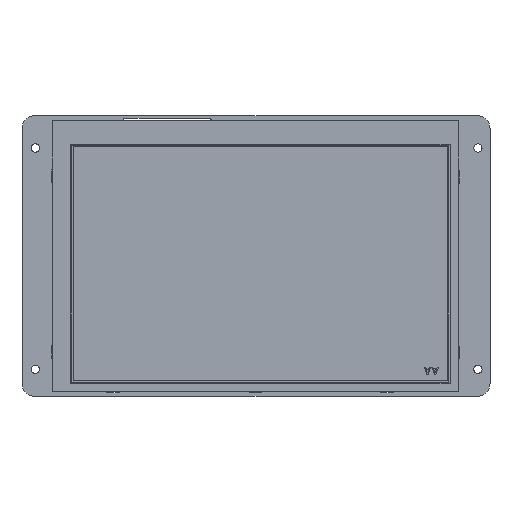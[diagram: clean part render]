
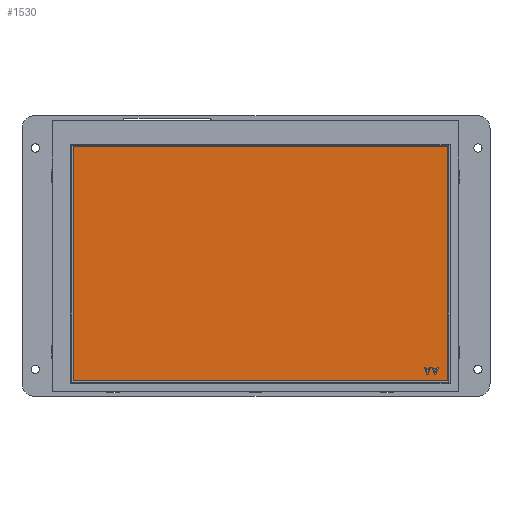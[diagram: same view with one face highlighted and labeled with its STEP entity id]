
A CAD part, front view. The second image highlights one B-rep face of the part: STEP entity #1530.
In plain terms, the highlighted planar face has unit normal (0, -1, 0) as drawn and (0, 1, 0) by its records, which use the part's own axes.
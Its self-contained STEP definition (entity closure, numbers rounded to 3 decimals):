
#741=DIRECTION('',(0.,0.,1.));
#742=VECTOR('',#741,93.6);
#743=CARTESIAN_POINT('',(-76.8,3.05,-49.63));
#744=LINE('',#743,#742);
#745=DIRECTION('',(-1.,0.,0.));
#746=VECTOR('',#745,149.76);
#747=CARTESIAN_POINT('',(72.96,3.05,-49.63));
#748=LINE('',#747,#746);
#749=DIRECTION('',(0.,0.,-1.));
#750=VECTOR('',#749,93.6);
#751=CARTESIAN_POINT('',(72.96,3.05,43.97));
#752=LINE('',#751,#750);
#753=DIRECTION('',(1.,0.,0.));
#754=VECTOR('',#753,149.76);
#755=CARTESIAN_POINT('',(-76.8,3.05,43.97));
#756=LINE('',#755,#754);
#757=DIRECTION('',(0.316,0.,0.949));
#758=VECTOR('',#757,3.236);
#759=CARTESIAN_POINT('',(-71.439,3.05,-47.287));
#760=LINE('',#759,#758);
#761=DIRECTION('',(1.,0.,0.));
#762=VECTOR('',#761,0.512);
#763=CARTESIAN_POINT('',(-71.951,3.05,-47.287));
#764=LINE('',#763,#762);
#765=DIRECTION('',(0.316,0.,-0.949));
#766=VECTOR('',#765,3.236);
#767=CARTESIAN_POINT('',(-72.974,3.05,-44.217));
#768=LINE('',#767,#766);
#769=DIRECTION('',(-1.,0.,0.));
#770=VECTOR('',#769,0.384);
#771=CARTESIAN_POINT('',(-72.59,3.05,-44.217));
#772=LINE('',#771,#770);
#773=DIRECTION('',(-0.31,0.,0.951));
#774=VECTOR('',#773,0.825);
#775=CARTESIAN_POINT('',(-72.334,3.05,-45.001));
#776=LINE('',#775,#774);
#777=DIRECTION('',(-1.,0.,0.));
#778=VECTOR('',#777,1.279);
#779=CARTESIAN_POINT('',(-71.055,3.05,-45.001));
#780=LINE('',#779,#778);
#781=DIRECTION('',(-0.31,0.,-0.951));
#782=VECTOR('',#781,0.825);
#783=CARTESIAN_POINT('',(-70.799,3.05,-44.217));
#784=LINE('',#783,#782);
#785=DIRECTION('',(-1.,0.,0.));
#786=VECTOR('',#785,0.384);
#787=CARTESIAN_POINT('',(-70.416,3.05,-44.217));
#788=LINE('',#787,#786);
#801=DIRECTION('',(0.316,0.,0.949));
#802=VECTOR('',#801,3.236);
#803=CARTESIAN_POINT('',(-68.369,3.05,-47.287));
#804=LINE('',#803,#802);
#805=DIRECTION('',(1.,0.,0.));
#806=VECTOR('',#805,0.512);
#807=CARTESIAN_POINT('',(-68.881,3.05,-47.287));
#808=LINE('',#807,#806);
#809=DIRECTION('',(0.316,0.,-0.949));
#810=VECTOR('',#809,3.236);
#811=CARTESIAN_POINT('',(-69.904,3.05,-44.217));
#812=LINE('',#811,#810);
#813=DIRECTION('',(-1.,0.,0.));
#814=VECTOR('',#813,0.384);
#815=CARTESIAN_POINT('',(-69.52,3.05,-44.217));
#816=LINE('',#815,#814);
#817=DIRECTION('',(-0.31,0.,0.951));
#818=VECTOR('',#817,0.825);
#819=CARTESIAN_POINT('',(-69.264,3.05,-45.001));
#820=LINE('',#819,#818);
#821=DIRECTION('',(-1.,0.,0.));
#822=VECTOR('',#821,1.279);
#823=CARTESIAN_POINT('',(-67.985,3.05,-45.001));
#824=LINE('',#823,#822);
#825=DIRECTION('',(-0.31,0.,-0.951));
#826=VECTOR('',#825,0.825);
#827=CARTESIAN_POINT('',(-67.729,3.05,-44.217));
#828=LINE('',#827,#826);
#829=DIRECTION('',(-1.,0.,0.));
#830=VECTOR('',#829,0.384);
#831=CARTESIAN_POINT('',(-67.346,3.05,-44.217));
#832=LINE('',#831,#830);
#981=CARTESIAN_POINT('',(-76.8,3.05,-49.63));
#982=CARTESIAN_POINT('',(-76.8,3.05,43.97));
#983=VERTEX_POINT('',#981);
#984=VERTEX_POINT('',#982);
#985=CARTESIAN_POINT('',(72.96,3.05,43.97));
#986=VERTEX_POINT('',#985);
#987=CARTESIAN_POINT('',(72.96,3.05,-49.63));
#988=VERTEX_POINT('',#987);
#989=CARTESIAN_POINT('',(-71.439,3.05,-47.287));
#990=CARTESIAN_POINT('',(-70.416,3.05,-44.217));
#991=VERTEX_POINT('',#989);
#992=VERTEX_POINT('',#990);
#993=CARTESIAN_POINT('',(-70.799,3.05,-44.217));
#994=VERTEX_POINT('',#993);
#995=CARTESIAN_POINT('',(-71.055,3.05,-45.001));
#996=VERTEX_POINT('',#995);
#997=CARTESIAN_POINT('',(-72.334,3.05,-45.001));
#998=VERTEX_POINT('',#997);
#999=CARTESIAN_POINT('',(-72.59,3.05,-44.217));
#1000=VERTEX_POINT('',#999);
#1001=CARTESIAN_POINT('',(-72.974,3.05,-44.217));
#1002=VERTEX_POINT('',#1001);
#1003=CARTESIAN_POINT('',(-71.951,3.05,-47.287));
#1004=VERTEX_POINT('',#1003);
#1011=CARTESIAN_POINT('',(-68.369,3.05,-47.287));
#1012=CARTESIAN_POINT('',(-67.346,3.05,-44.217));
#1013=VERTEX_POINT('',#1011);
#1014=VERTEX_POINT('',#1012);
#1015=CARTESIAN_POINT('',(-67.729,3.05,-44.217));
#1016=VERTEX_POINT('',#1015);
#1017=CARTESIAN_POINT('',(-67.985,3.05,-45.001));
#1018=VERTEX_POINT('',#1017);
#1019=CARTESIAN_POINT('',(-69.264,3.05,-45.001));
#1020=VERTEX_POINT('',#1019);
#1021=CARTESIAN_POINT('',(-69.52,3.05,-44.217));
#1022=VERTEX_POINT('',#1021);
#1023=CARTESIAN_POINT('',(-69.904,3.05,-44.217));
#1024=VERTEX_POINT('',#1023);
#1025=CARTESIAN_POINT('',(-68.881,3.05,-47.287));
#1026=VERTEX_POINT('',#1025);
#1483=CARTESIAN_POINT('',(0.,3.05,0.));
#1484=DIRECTION('',(0.,1.,0.));
#1485=DIRECTION('',(1.,0.,0.));
#1486=AXIS2_PLACEMENT_3D('',#1483,#1484,#1485);
#1487=PLANE('',#1486);
#1488=ORIENTED_EDGE('',*,*,#1435,.F.);
#1489=ORIENTED_EDGE('',*,*,#1450,.F.);
#1490=ORIENTED_EDGE('',*,*,#1464,.F.);
#1491=ORIENTED_EDGE('',*,*,#1477,.F.);
#1492=EDGE_LOOP('',(#1488,#1489,#1490,#1491));
#1493=FACE_OUTER_BOUND('',#1492,.F.);
#1495=ORIENTED_EDGE('',*,*,#1494,.F.);
#1497=ORIENTED_EDGE('',*,*,#1496,.F.);
#1499=ORIENTED_EDGE('',*,*,#1498,.F.);
#1501=ORIENTED_EDGE('',*,*,#1500,.F.);
#1503=ORIENTED_EDGE('',*,*,#1502,.F.);
#1505=ORIENTED_EDGE('',*,*,#1504,.F.);
#1507=ORIENTED_EDGE('',*,*,#1506,.F.);
#1509=ORIENTED_EDGE('',*,*,#1508,.F.);
#1510=EDGE_LOOP('',(#1495,#1497,#1499,#1501,#1503,#1505,#1507,#1509));
#1511=FACE_BOUND('',#1510,.F.);
#1513=ORIENTED_EDGE('',*,*,#1512,.F.);
#1515=ORIENTED_EDGE('',*,*,#1514,.F.);
#1517=ORIENTED_EDGE('',*,*,#1516,.F.);
#1519=ORIENTED_EDGE('',*,*,#1518,.F.);
#1521=ORIENTED_EDGE('',*,*,#1520,.F.);
#1523=ORIENTED_EDGE('',*,*,#1522,.F.);
#1525=ORIENTED_EDGE('',*,*,#1524,.F.);
#1527=ORIENTED_EDGE('',*,*,#1526,.F.);
#1528=EDGE_LOOP('',(#1513,#1515,#1517,#1519,#1521,#1523,#1525,#1527));
#1529=FACE_BOUND('',#1528,.F.);
#1435=EDGE_CURVE('',#983,#984,#744,.T.);
#1450=EDGE_CURVE('',#988,#983,#748,.T.);
#1464=EDGE_CURVE('',#986,#988,#752,.T.);
#1477=EDGE_CURVE('',#984,#986,#756,.T.);
#1494=EDGE_CURVE('',#991,#992,#760,.T.);
#1496=EDGE_CURVE('',#1004,#991,#764,.T.);
#1498=EDGE_CURVE('',#1002,#1004,#768,.T.);
#1500=EDGE_CURVE('',#1000,#1002,#772,.T.);
#1502=EDGE_CURVE('',#998,#1000,#776,.T.);
#1504=EDGE_CURVE('',#996,#998,#780,.T.);
#1506=EDGE_CURVE('',#994,#996,#784,.T.);
#1508=EDGE_CURVE('',#992,#994,#788,.T.);
#1512=EDGE_CURVE('',#1013,#1014,#804,.T.);
#1514=EDGE_CURVE('',#1026,#1013,#808,.T.);
#1516=EDGE_CURVE('',#1024,#1026,#812,.T.);
#1518=EDGE_CURVE('',#1022,#1024,#816,.T.);
#1520=EDGE_CURVE('',#1020,#1022,#820,.T.);
#1522=EDGE_CURVE('',#1018,#1020,#824,.T.);
#1524=EDGE_CURVE('',#1016,#1018,#828,.T.);
#1526=EDGE_CURVE('',#1014,#1016,#832,.T.);
#1530=ADVANCED_FACE('',(#1493,#1511,#1529),#1487,.T.);
